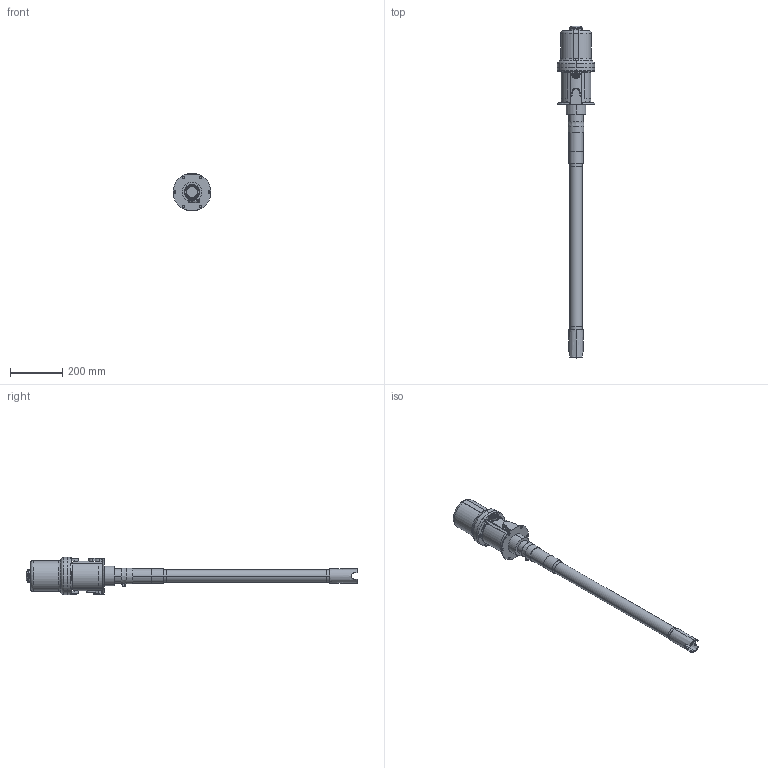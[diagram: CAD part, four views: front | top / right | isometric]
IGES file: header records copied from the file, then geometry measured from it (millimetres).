
Start section:  PTC IGES file: 204254-en-zak.igs
Global section: file name: 204254-en-zak.igs; native system: Creo Parametric by PTC Inc.; preprocessor: 2023424; author: qtmwp1; organization: Unknown; date: 20240322.095616; units: inch
Bounding box: 143.82 x 1266.18 x 141.6 mm (x, y, z)
Surface area: 355787.4 mm2 (no closed solid volume)
Topology: 0 solids, 0 shells, 266 faces, 1365 edges, 1365 vertices
Faces by surface type: revolution 167, bspline 99
